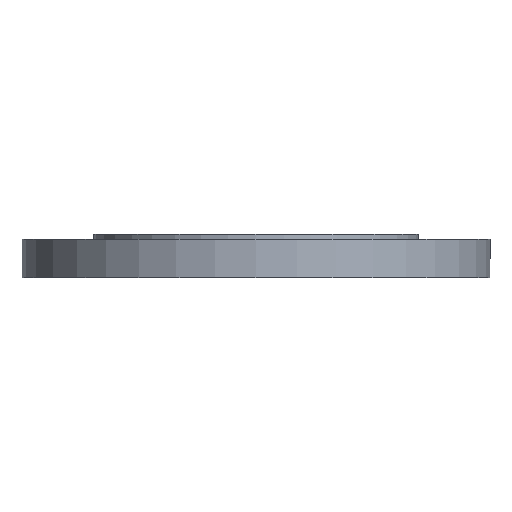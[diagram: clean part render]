
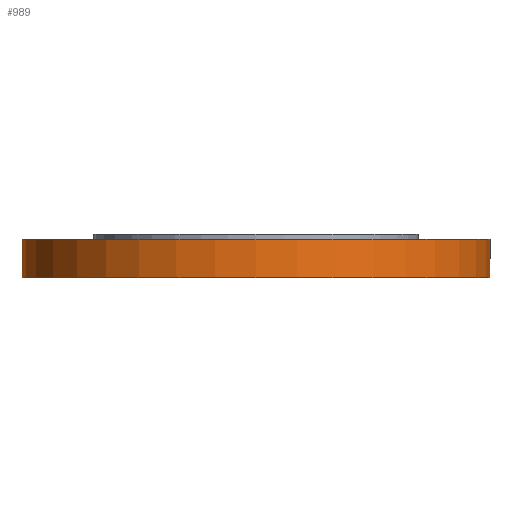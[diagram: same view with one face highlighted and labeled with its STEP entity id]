
A CAD part, front view. The second image highlights one B-rep face of the part: STEP entity #989.
In plain terms, the highlighted cylindrical face has radius 225 mm (diameter 450 mm), a partial arc.
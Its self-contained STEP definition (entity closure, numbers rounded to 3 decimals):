
#92 = CARTESIAN_POINT ( 'NONE',  ( 225., 0., -42. ) ) ;
#99 = DIRECTION ( 'NONE',  ( -1., 0., 0. ) ) ;
#102 = DIRECTION ( 'NONE',  ( 0., 0., -1. ) ) ;
#113 = CARTESIAN_POINT ( 'NONE',  ( -225., 0., -42. ) ) ;
#185 = EDGE_CURVE ( 'NONE', #855, #656, #501, .T. ) ;
#199 = DIRECTION ( 'NONE',  ( 1., 0., 0. ) ) ;
#243 = AXIS2_PLACEMENT_3D ( 'NONE', #351, #102, #99 ) ;
#296 = CARTESIAN_POINT ( 'NONE',  ( -225., 0., -5. ) ) ;
#305 = DIRECTION ( 'NONE',  ( -1., 0., 0. ) ) ;
#306 = DIRECTION ( 'NONE',  ( 0., 0., -1. ) ) ;
#307 = CARTESIAN_POINT ( 'NONE',  ( 0., 0., -42. ) ) ;
#351 = CARTESIAN_POINT ( 'NONE',  ( 0., 0., -5. ) ) ;
#354 = AXIS2_PLACEMENT_3D ( 'NONE', #1260, #1253, #199 ) ;
#382 = DIRECTION ( 'NONE',  ( 0., 0., 1. ) ) ;
#383 = CARTESIAN_POINT ( 'NONE',  ( 225., 0., -115. ) ) ;
#385 = LINE ( 'NONE', #383, #706 ) ;
#496 = CARTESIAN_POINT ( 'NONE',  ( -225., 0., -115. ) ) ;
#498 = DIRECTION ( 'NONE',  ( 0., 0., 1. ) ) ;
#501 = LINE ( 'NONE', #496, #1147 ) ;
#577 = EDGE_CURVE ( 'NONE', #862, #1114, #385, .T. ) ;
#626 = EDGE_CURVE ( 'NONE', #1114, #656, #722, .T. ) ;
#648 = EDGE_CURVE ( 'NONE', #862, #855, #1225, .T. ) ;
#656 = VERTEX_POINT ( 'NONE', #296 ) ;
#706 = VECTOR ( 'NONE', #382, 1000. ) ;
#722 = CIRCLE ( 'NONE', #243, 225. ) ;
#739 = CARTESIAN_POINT ( 'NONE',  ( 225., 0., -5. ) ) ;
#750 = FACE_OUTER_BOUND ( 'NONE', #872, .T. ) ;
#855 = VERTEX_POINT ( 'NONE', #113 ) ;
#862 = VERTEX_POINT ( 'NONE', #92 ) ;
#872 = EDGE_LOOP ( 'NONE', ( #1220, #1223, #1228, #1233 ) ) ;
#989 = ADVANCED_FACE ( 'NONE', ( #750 ), #1262, .T. ) ;
#1064 = AXIS2_PLACEMENT_3D ( 'NONE', #307, #306, #305 ) ;
#1114 = VERTEX_POINT ( 'NONE', #739 ) ;
#1147 = VECTOR ( 'NONE', #498, 1000. ) ;
#1220 = ORIENTED_EDGE ( 'NONE', *, *, #185, .F. ) ;
#1223 = ORIENTED_EDGE ( 'NONE', *, *, #648, .F. ) ;
#1225 = CIRCLE ( 'NONE', #1064, 225. ) ;
#1228 = ORIENTED_EDGE ( 'NONE', *, *, #577, .T. ) ;
#1233 = ORIENTED_EDGE ( 'NONE', *, *, #626, .T. ) ;
#1253 = DIRECTION ( 'NONE',  ( 0., 0., 1. ) ) ;
#1260 = CARTESIAN_POINT ( 'NONE',  ( 0., 0., -115. ) ) ;
#1262 = CYLINDRICAL_SURFACE ( 'NONE', #354, 225. ) ;
